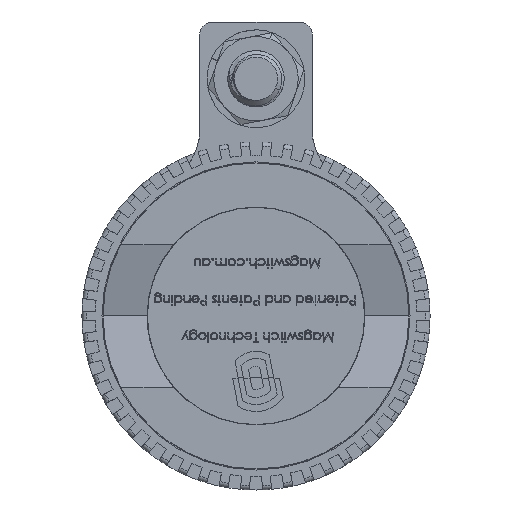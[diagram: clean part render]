
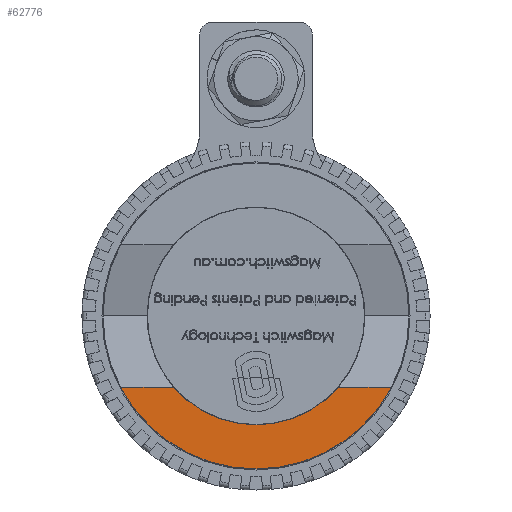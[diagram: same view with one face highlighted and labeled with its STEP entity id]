
A CAD part, front view. The second image highlights one B-rep face of the part: STEP entity #62776.
In plain terms, the highlighted planar face has unit normal (0, -1, 0).
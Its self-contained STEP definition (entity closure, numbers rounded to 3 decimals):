
#8186 = EDGE_CURVE ( 'NONE', #95864, #72372, #24332, .T. ) ;
#10673 = DIRECTION ( 'NONE',  ( 1., 0., 0. ) ) ;
#11826 = CARTESIAN_POINT ( 'NONE',  ( 0., 0., 0. ) ) ;
#17484 = VECTOR ( 'NONE', #10673, 1000. ) ;
#19178 = DIRECTION ( 'NONE',  ( 1., 0., 0. ) ) ;
#19381 = DIRECTION ( 'NONE',  ( 0., 0., 1. ) ) ;
#21801 = PLANE ( 'NONE',  #63682 ) ;
#24332 = LINE ( 'NONE', #71100, #81259 ) ;
#24622 = EDGE_LOOP ( 'NONE', ( #60100, #42105, #83879, #47829, #42728, #49195 ) ) ;
#28301 = EDGE_CURVE ( 'NONE', #72062, #92020, #39660, .T. ) ;
#33892 = CARTESIAN_POINT ( 'NONE',  ( 0., 0., 0. ) ) ;
#36716 = DIRECTION ( 'NONE',  ( 0., 0., 1. ) ) ;
#37017 = VERTEX_POINT ( 'NONE', #69985 ) ;
#39586 = LINE ( 'NONE', #77645, #17484 ) ;
#39660 = CIRCLE ( 'NONE', #94010, 24.558 ) ;
#39971 = CARTESIAN_POINT ( 'NONE',  ( -18.59, 0., -16.044 ) ) ;
#40765 = CIRCLE ( 'NONE', #87815, 24.558 ) ;
#41355 = DIRECTION ( 'NONE',  ( 0., 0., 1. ) ) ;
#42105 = ORIENTED_EDGE ( 'NONE', *, *, #28301, .T. ) ;
#42728 = ORIENTED_EDGE ( 'NONE', *, *, #53165, .F. ) ;
#43237 = CARTESIAN_POINT ( 'NONE',  ( 0., 0., 0. ) ) ;
#44253 = CARTESIAN_POINT ( 'NONE',  ( 0., 0., 0. ) ) ;
#45199 = AXIS2_PLACEMENT_3D ( 'NONE', #43237, #95201, #50657 ) ;
#47829 = ORIENTED_EDGE ( 'NONE', *, *, #8186, .F. ) ;
#49195 = ORIENTED_EDGE ( 'NONE', *, *, #53539, .F. ) ;
#49645 = CARTESIAN_POINT ( 'NONE',  ( 0., 0., -24.558 ) ) ;
#50657 = DIRECTION ( 'NONE',  ( 0., 0., 1. ) ) ;
#51720 = DIRECTION ( 'NONE',  ( 0., 0., 1. ) ) ;
#53165 = EDGE_CURVE ( 'NONE', #79211, #95864, #78178, .T. ) ;
#53539 = EDGE_CURVE ( 'NONE', #37017, #79211, #64188, .T. ) ;
#54263 = CARTESIAN_POINT ( 'NONE',  ( 0., 0., -34.5 ) ) ;
#60100 = ORIENTED_EDGE ( 'NONE', *, *, #70506, .F. ) ;
#62776 = ADVANCED_FACE ( 'NONE', ( #77318 ), #21801, .F. ) ;
#63682 = AXIS2_PLACEMENT_3D ( 'NONE', #73723, #81223, #36716 ) ;
#63872 = DIRECTION ( 'NONE',  ( 0., 1., 0. ) ) ;
#64188 = CIRCLE ( 'NONE', #45199, 34.5 ) ;
#66991 = AXIS2_PLACEMENT_3D ( 'NONE', #44253, #96232, #51720 ) ;
#69985 = CARTESIAN_POINT ( 'NONE',  ( 30.543, 0., -16.043 ) ) ;
#70506 = EDGE_CURVE ( 'NONE', #72062, #37017, #39586, .T. ) ;
#71100 = CARTESIAN_POINT ( 'NONE',  ( -34.5, 0., -16.043 ) ) ;
#72062 = VERTEX_POINT ( 'NONE', #91695 ) ;
#72372 = VERTEX_POINT ( 'NONE', #39971 ) ;
#73723 = CARTESIAN_POINT ( 'NONE',  ( 0., 0., 0. ) ) ;
#74973 = CARTESIAN_POINT ( 'NONE',  ( -30.543, 0., -16.043 ) ) ;
#77318 = FACE_OUTER_BOUND ( 'NONE', #24622, .T. ) ;
#77645 = CARTESIAN_POINT ( 'NONE',  ( -34.5, 0., -16.043 ) ) ;
#78178 = CIRCLE ( 'NONE', #66991, 34.5 ) ;
#79211 = VERTEX_POINT ( 'NONE', #54263 ) ;
#80836 = EDGE_CURVE ( 'NONE', #92020, #72372, #40765, .T. ) ;
#81223 = DIRECTION ( 'NONE',  ( 0., 1., 0. ) ) ;
#81259 = VECTOR ( 'NONE', #19178, 1000. ) ;
#83879 = ORIENTED_EDGE ( 'NONE', *, *, #80836, .T. ) ;
#85884 = DIRECTION ( 'NONE',  ( 0., 1., 0. ) ) ;
#87815 = AXIS2_PLACEMENT_3D ( 'NONE', #11826, #63872, #19381 ) ;
#91695 = CARTESIAN_POINT ( 'NONE',  ( 18.592, 0., -16.043 ) ) ;
#92020 = VERTEX_POINT ( 'NONE', #49645 ) ;
#94010 = AXIS2_PLACEMENT_3D ( 'NONE', #33892, #85884, #41355 ) ;
#95201 = DIRECTION ( 'NONE',  ( 0., 1., 0. ) ) ;
#95864 = VERTEX_POINT ( 'NONE', #74973 ) ;
#96232 = DIRECTION ( 'NONE',  ( 0., 1., 0. ) ) ;
